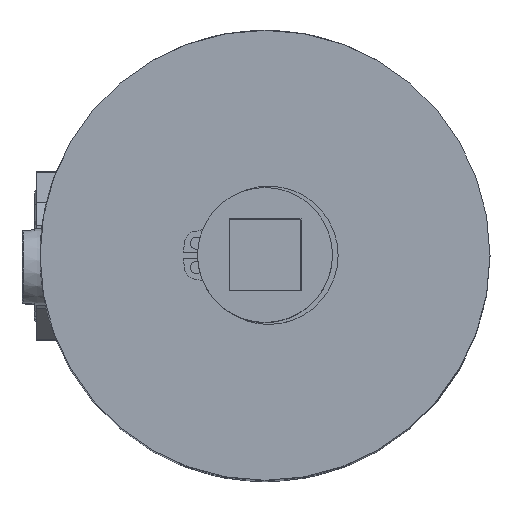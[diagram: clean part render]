
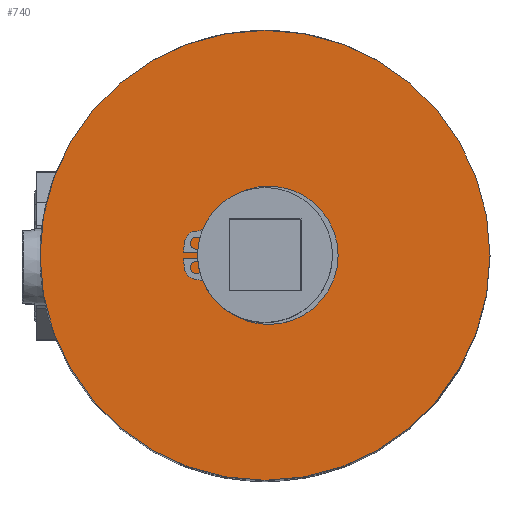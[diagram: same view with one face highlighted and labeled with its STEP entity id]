
A CAD part, top view. The second image highlights one B-rep face of the part: STEP entity #740.
In plain terms, the highlighted planar face has unit normal (0, 0, 1).
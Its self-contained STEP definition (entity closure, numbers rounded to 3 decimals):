
#740=ADVANCED_FACE('',(#1536,#1537),#1538,.T.);
#1536=FACE_OUTER_BOUND('',#2600,.T.);
#1537=FACE_BOUND('',#2601,.T.);
#1538=PLANE('',#2602);
#2600=EDGE_LOOP('',(#4934,#4935));
#2601=EDGE_LOOP('',(#4936,#4937));
#2602=AXIS2_PLACEMENT_3D('',#4938,#4939,#4940);
#4934=ORIENTED_EDGE('',*,*,#5668,.T.);
#4935=ORIENTED_EDGE('',*,*,#6304,.T.);
#4936=ORIENTED_EDGE('',*,*,#6057,.T.);
#4937=ORIENTED_EDGE('',*,*,#5987,.T.);
#4938=CARTESIAN_POINT('',(0.,0.,34.95));
#4939=DIRECTION('',(0.0,0.0,1.0));
#4940=DIRECTION('',(1.0,-0.0,0.0));
#5668=EDGE_CURVE('',#6698,#6695,#6699,.T.);
#5987=EDGE_CURVE('',#7237,#7241,#7243,.T.);
#6057=EDGE_CURVE('',#7241,#7237,#7348,.T.);
#6304=EDGE_CURVE('',#6695,#6698,#7631,.T.);
#6695=VERTEX_POINT('',#8130);
#6698=VERTEX_POINT('',#8134);
#6699=CIRCLE('',#8135,20.0);
#7237=VERTEX_POINT('',#8850);
#7241=VERTEX_POINT('',#8855);
#7243=CIRCLE('',#8858,4.75);
#7348=CIRCLE('',#8993,4.75);
#7631=CIRCLE('',#9398,20.0);
#8130=CARTESIAN_POINT('',(20.0,0.,34.95));
#8134=CARTESIAN_POINT('',(-20.0,0.,34.95));
#8135=AXIS2_PLACEMENT_3D('',#10125,#10126,#10127);
#8850=CARTESIAN_POINT('',(0.,4.75,34.95));
#8855=CARTESIAN_POINT('',(0.,-4.75,34.95));
#8858=AXIS2_PLACEMENT_3D('',#10708,#10709,#10710);
#8993=AXIS2_PLACEMENT_3D('',#10804,#10805,#10806);
#9398=AXIS2_PLACEMENT_3D('',#11112,#11113,#11114);
#10125=CARTESIAN_POINT('',(0.0,0.0,34.95));
#10126=DIRECTION('',(0.0,0.0,1.0));
#10127=DIRECTION('',(1.0,0.0,0.0));
#10708=CARTESIAN_POINT('',(0.0,0.0,34.95));
#10709=DIRECTION('',(0.0,0.0,-1.0));
#10710=DIRECTION('',(0.0,1.0,0.0));
#10804=CARTESIAN_POINT('',(0.0,0.0,34.95));
#10805=DIRECTION('',(0.0,0.0,-1.0));
#10806=DIRECTION('',(0.0,1.0,0.0));
#11112=CARTESIAN_POINT('',(0.0,0.0,34.95));
#11113=DIRECTION('',(0.0,0.0,1.0));
#11114=DIRECTION('',(1.0,0.0,0.0));
